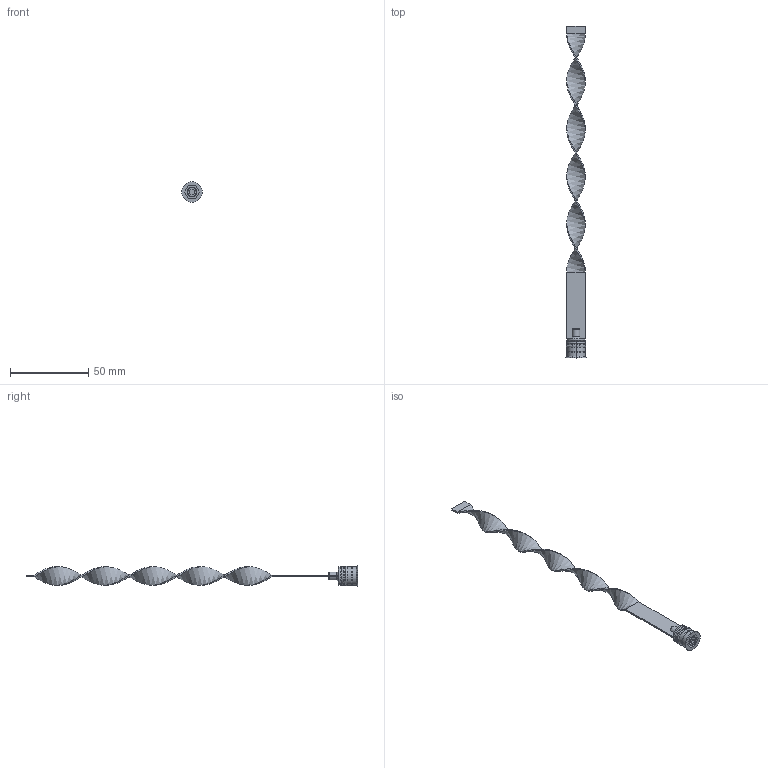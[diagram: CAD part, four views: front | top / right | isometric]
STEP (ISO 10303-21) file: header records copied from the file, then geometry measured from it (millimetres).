
FILE_DESCRIPTION (( 'STEP AP203' ), '1' );
FILE_NAME ('RLS-12Fx200.STEP', '2015-12-04T14:44:58', ( 'Balzi' ), ( '' ), 'SwSTEP 2.0', 'SolidWorks 2015', '' );
FILE_SCHEMA (( 'CONFIG_CONTROL_DESIGN' ));
Length unit declared in the file: millimetre
Products named in the file (1): RLS-12Fx200
Bounding box: 13.3 x 212.5 x 13.3 mm (x, y, z)
Volume: 3723.4 mm3; surface area: 6406.8 mm2
Topology: 1 solids, 1 shells, 80 faces, 187 edges, 113 vertices
Faces by surface type: plane 34, cylinder 17, cone 17, torus 8, bspline 4
Entity records: 4017 total; most frequent: CARTESIAN_POINT 2127, DIRECTION 386, ORIENTED_EDGE 374, EDGE_CURVE 187, AXIS2_PLACEMENT_3D 144, VERTEX_POINT 113, VECTOR 98, LINE 98
